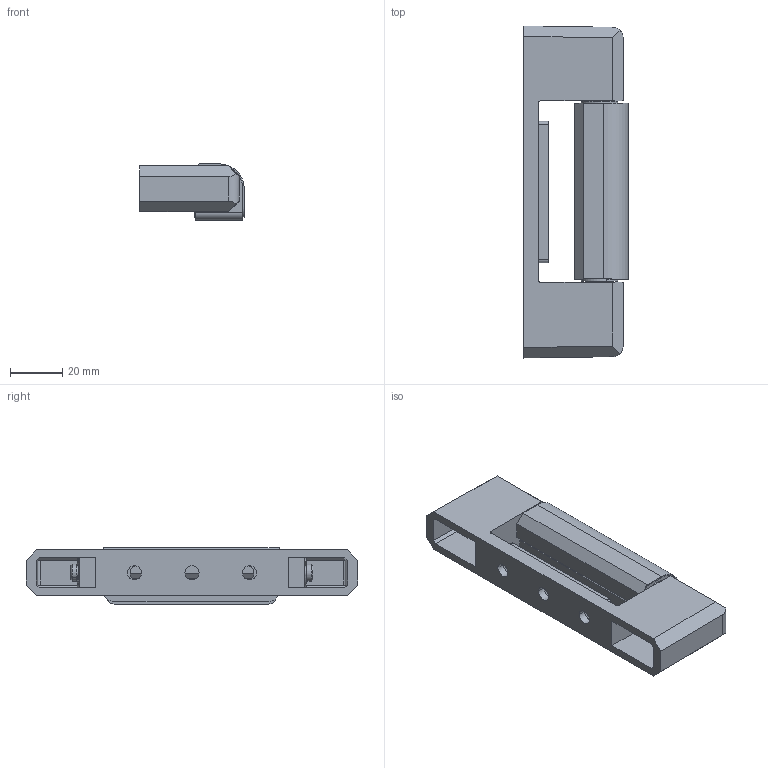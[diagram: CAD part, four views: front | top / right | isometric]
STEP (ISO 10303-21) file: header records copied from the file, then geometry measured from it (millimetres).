
FILE_DESCRIPTION (( 'STEP AP203' ), '1' );
FILE_NAME ('EFH-100S-4.STEP', '2013-08-15T04:45:59', ( '中村　妙子' ), ( 'ＮＴ設計' ), 'SwSTEP 2.0', 'SolidWorks 2002296', '' );
FILE_SCHEMA (( 'CONFIG_CONTROL_DESIGN' ));
Length unit declared in the file: millimetre
Products named in the file (8): EFH-100S-4; EFH-100S-4-1_蹬怮椔; EFH-100S-4-2_蹬怮椔; EFH-100S-4-3_蹬怮椔; EFH-100S-4-4_蹬怮椔; EFH-100S-4-5_蹬怮椔; EFH-100S-4-6_蹬怮椔; EFH-100S-4-7_蹬怮椔
Assembly tree (12 placements, depth 2):
  EFH-100S-4
    EFH-100S-4-5_蹬怮椔
    EFH-100S-4-1_蹬怮椔  x2
    EFH-100S-4-6_蹬怮椔
    EFH-100S-4-4_蹬怮椔
    EFH-100S-4-3_蹬怮椔
    EFH-100S-4-7_蹬怮椔  x2
    EFH-100S-4-2_蹬怮椔  x4
Bounding box: 40 x 127 x 21.5 mm (x, y, z)
Volume: 36139 mm3; surface area: 32445.2 mm2
Topology: 12 solids, 12 shells, 266 faces, 666 edges, 432 vertices
Faces by surface type: plane 142, cylinder 104, cone 20
Entity records: 7456 total; most frequent: CARTESIAN_POINT 1168, DIRECTION 1128, ORIENTED_EDGE 1088, EDGE_CURVE 544, LINE 376, VECTOR 376, AXIS2_PLACEMENT_3D 376, VERTEX_POINT 352
